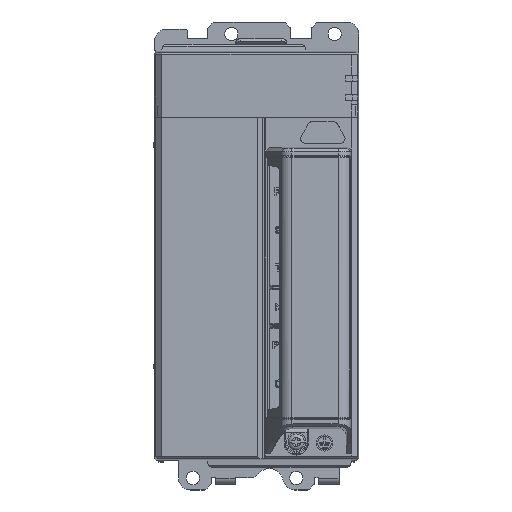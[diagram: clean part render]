
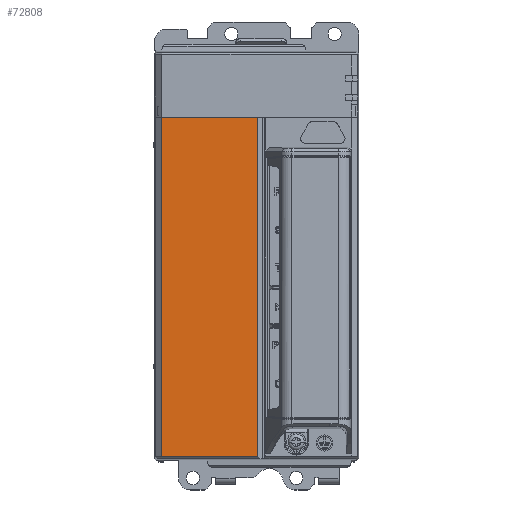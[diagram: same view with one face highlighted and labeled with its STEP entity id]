
A CAD part, top view. The second image highlights one B-rep face of the part: STEP entity #72808.
In plain terms, the highlighted planar face has unit normal (0, 0, 1).
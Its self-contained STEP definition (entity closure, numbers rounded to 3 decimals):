
#3152=CARTESIAN_POINT('',(-74.386,-83.708,
72.601));
#13020=DIRECTION('',(0.,-1.,0.));
#13021=VECTOR('',#13020,141.097);
#13022=CARTESIAN_POINT('',(-34.4,57.387,72.6));
#13023=LINE('',#13022,#13021);
#13024=DIRECTION('',(-1.,0.,0.));
#13025=VECTOR('',#13024,39.986);
#13026=CARTESIAN_POINT('',(-34.4,-83.71,72.6));
#13027=LINE('',#13026,#13025);
#13028=DIRECTION('',(0.,1.,0.));
#13029=VECTOR('',#13028,141.095);
#13030=CARTESIAN_POINT('',(-74.386,-83.708,
72.601));
#13031=LINE('',#13030,#13029);
#13032=DIRECTION('',(1.,0.,0.));
#13033=VECTOR('',#13032,39.989);
#13034=CARTESIAN_POINT('',(-74.389,57.387,72.6));
#13035=LINE('',#13034,#13033);
#50368=CARTESIAN_POINT('',(-34.4,57.387,72.6));
#50369=VERTEX_POINT('',#50368);
#50370=CARTESIAN_POINT('',(-74.389,57.387,72.6));
#50371=VERTEX_POINT('',#50370);
#52919=CARTESIAN_POINT('',(-34.4,-83.71,72.6));
#52920=VERTEX_POINT('',#52919);
#52921=VERTEX_POINT('',#3152);
#72797=CARTESIAN_POINT('',(0.,0.,72.6));
#72798=DIRECTION('',(0.,0.,1.));
#72799=DIRECTION('',(1.,0.,0.));
#72800=AXIS2_PLACEMENT_3D('',#72797,#72798,#72799);
#72801=PLANE('',#72800);
#72802=ORIENTED_EDGE('',*,*,#57891,.T.);
#72803=ORIENTED_EDGE('',*,*,#57909,.T.);
#72804=ORIENTED_EDGE('',*,*,#57937,.T.);
#72805=ORIENTED_EDGE('',*,*,#58008,.T.);
#72806=EDGE_LOOP('',(#72802,#72803,#72804,#72805));
#72807=FACE_OUTER_BOUND('',#72806,.F.);
#72808=ADVANCED_FACE('',(#72807),#72801,.T.);
#57891=EDGE_CURVE('',#50369,#52920,#13023,.T.);
#57909=EDGE_CURVE('',#52920,#52921,#13027,.T.);
#57937=EDGE_CURVE('',#52921,#50371,#13031,.T.);
#58008=EDGE_CURVE('',#50371,#50369,#13035,.T.);
